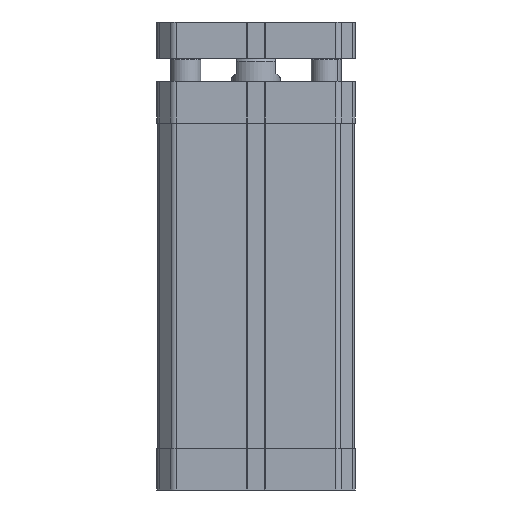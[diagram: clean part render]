
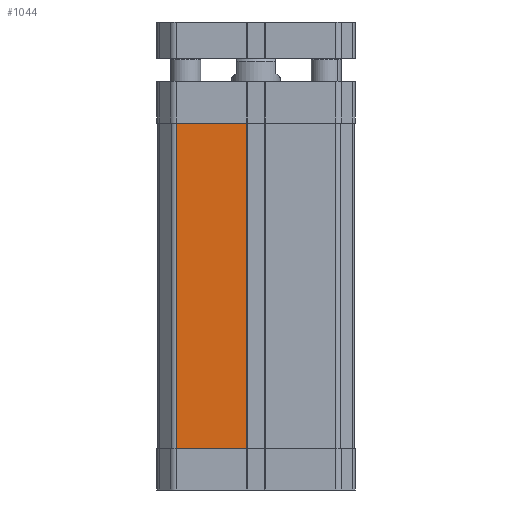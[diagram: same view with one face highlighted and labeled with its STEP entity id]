
A CAD part, front view. The second image highlights one B-rep face of the part: STEP entity #1044.
In plain terms, the highlighted planar face has unit normal (0, -1, 0).
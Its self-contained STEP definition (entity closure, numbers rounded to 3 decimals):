
#235 = LINE ( 'NONE', #30239, #24541 ) ;
#411 = LINE ( 'NONE', #10052, #25176 ) ;
#1004 = EDGE_LOOP ( 'NONE', ( #9750, #30652, #23679, #19781 ) ) ;
#1044 = ADVANCED_FACE ( 'NONE', ( #35266 ), #24510, .F. ) ;
#3635 = LINE ( 'NONE', #25521, #10495 ) ;
#4671 = CARTESIAN_POINT ( 'NONE',  ( -3.125, -32.5, -121.2 ) ) ;
#5626 = VECTOR ( 'NONE', #19384, 1000. ) ;
#6693 = DIRECTION ( 'NONE',  ( 1., 0., 0. ) ) ;
#9750 = ORIENTED_EDGE ( 'NONE', *, *, #12724, .F. ) ;
#9818 = EDGE_CURVE ( 'NONE', #16349, #10644, #36368, .T. ) ;
#10052 = CARTESIAN_POINT ( 'NONE',  ( -26.319, -32.5, -36.2 ) ) ;
#10495 = VECTOR ( 'NONE', #13888, 1000. ) ;
#10644 = VERTEX_POINT ( 'NONE', #21720 ) ;
#12724 = EDGE_CURVE ( 'NONE', #14684, #22850, #411, .T. ) ;
#13888 = DIRECTION ( 'NONE',  ( -1., 0., 0. ) ) ;
#14684 = VERTEX_POINT ( 'NONE', #29161 ) ;
#16349 = VERTEX_POINT ( 'NONE', #4671 ) ;
#18082 = EDGE_CURVE ( 'NONE', #16349, #14684, #3635, .T. ) ;
#19384 = DIRECTION ( 'NONE',  ( 0., 0., 1. ) ) ;
#19781 = ORIENTED_EDGE ( 'NONE', *, *, #25319, .F. ) ;
#20646 = CARTESIAN_POINT ( 'NONE',  ( 32.5, -32.5, -13.8 ) ) ;
#21720 = CARTESIAN_POINT ( 'NONE',  ( -3.125, -32.5, -13.8 ) ) ;
#22850 = VERTEX_POINT ( 'NONE', #35952 ) ;
#23679 = ORIENTED_EDGE ( 'NONE', *, *, #9818, .T. ) ;
#24251 = DIRECTION ( 'NONE',  ( -1., 0., 0. ) ) ;
#24510 = PLANE ( 'NONE',  #25074 ) ;
#24541 = VECTOR ( 'NONE', #6693, 1000. ) ;
#25037 = CARTESIAN_POINT ( 'NONE',  ( -3.125, -32.5, -13.8 ) ) ;
#25074 = AXIS2_PLACEMENT_3D ( 'NONE', #20646, #29992, #24251 ) ;
#25176 = VECTOR ( 'NONE', #30277, 1000. ) ;
#25319 = EDGE_CURVE ( 'NONE', #22850, #10644, #235, .T. ) ;
#25521 = CARTESIAN_POINT ( 'NONE',  ( -3.125, -32.5, -121.2 ) ) ;
#29161 = CARTESIAN_POINT ( 'NONE',  ( -26.319, -32.5, -121.2 ) ) ;
#29992 = DIRECTION ( 'NONE',  ( 0., 1., 0. ) ) ;
#30239 = CARTESIAN_POINT ( 'NONE',  ( 32.5, -32.5, -13.8 ) ) ;
#30277 = DIRECTION ( 'NONE',  ( 0., 0., 1. ) ) ;
#30652 = ORIENTED_EDGE ( 'NONE', *, *, #18082, .F. ) ;
#35266 = FACE_OUTER_BOUND ( 'NONE', #1004, .T. ) ;
#35952 = CARTESIAN_POINT ( 'NONE',  ( -26.319, -32.5, -13.8 ) ) ;
#36368 = LINE ( 'NONE', #25037, #5626 ) ;
